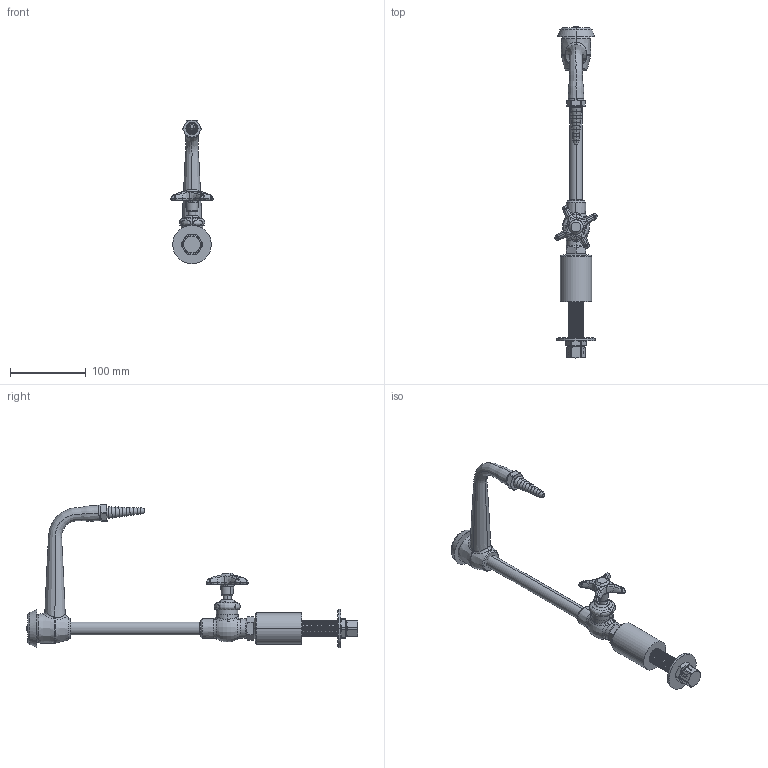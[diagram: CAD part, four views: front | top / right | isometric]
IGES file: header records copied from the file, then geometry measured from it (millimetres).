
Start section:  PTC IGES file: LWS6-B13-G.igs
Global section: file name: LWS6-B13-G.igs; native system: Creo Parametric by PTC Inc.; preprocessor: 2017260; author: usch_engrender; organization: Unknown; date: 20190912.114801; units: inch
Bounding box: 55.72 x 438.33 x 189.43 mm (x, y, z)
Surface area: 81520.9 mm2 (no closed solid volume)
Topology: 0 solids, 37 shells, 463 faces, 1194 edges, 764 vertices
Faces by surface type: revolution 265, bspline 198
